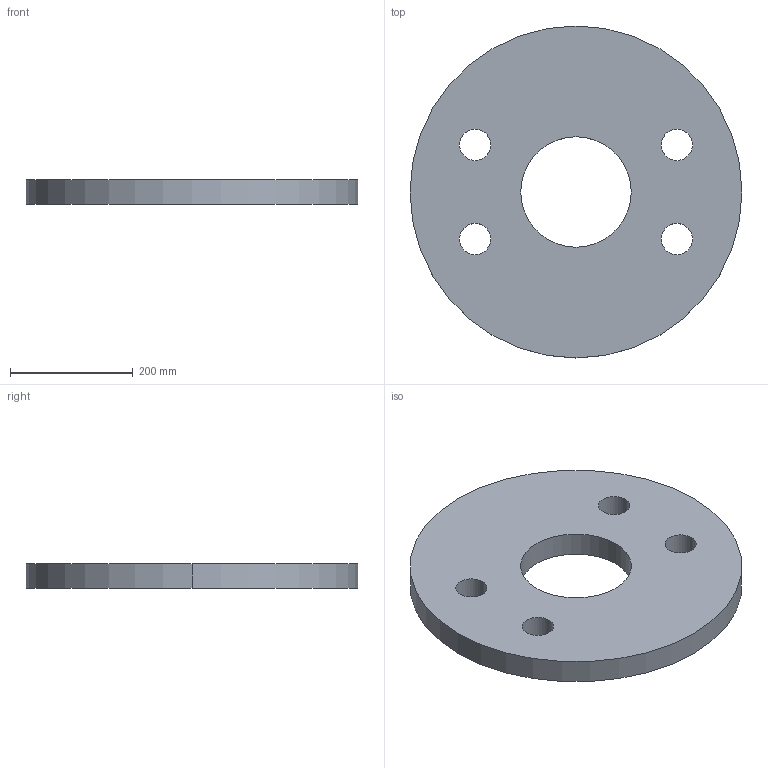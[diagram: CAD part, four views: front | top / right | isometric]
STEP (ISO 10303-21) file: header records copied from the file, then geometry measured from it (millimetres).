
FILE_DESCRIPTION (( 'STEP AP203' ), '1' );
FILE_NAME ('Kreissscheibe M48.STEP', '2018-02-22T05:53:43', ( 'install' ), ( 'Hewlett-Packard Company' ), 'SwSTEP 2.0', 'SolidWorks 2017', '' );
FILE_SCHEMA (( 'CONFIG_CONTROL_DESIGN' ));
Length unit declared in the file: millimetre
Products named in the file (1): Kreissscheibe M48
Bounding box: 541 x 541 x 40 mm (x, y, z)
Volume: 7850117.5 mm3; surface area: 508744.8 mm2
Topology: 1 solids, 1 shells, 14 faces, 36 edges, 24 vertices
Faces by surface type: cylinder 12, plane 2
Entity records: 541 total; most frequent: DIRECTION 90, CARTESIAN_POINT 75, ORIENTED_EDGE 72, AXIS2_PLACEMENT_3D 39, EDGE_CURVE 36, VERTEX_POINT 24, EDGE_LOOP 24, CIRCLE 24
